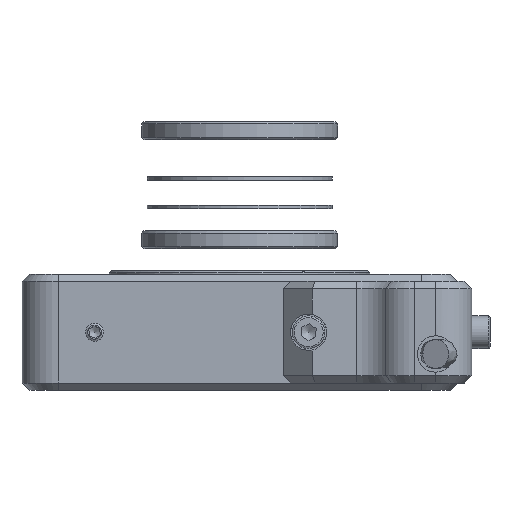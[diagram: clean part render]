
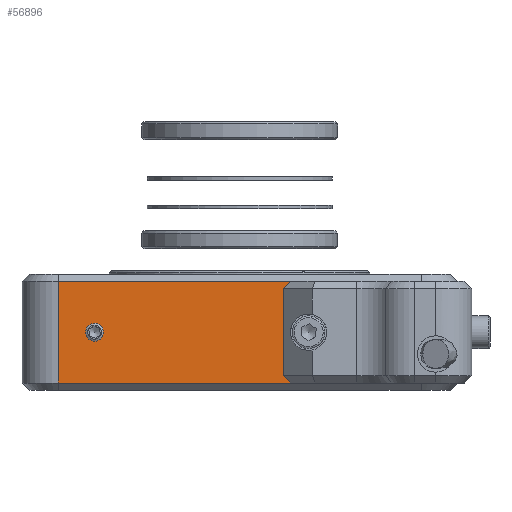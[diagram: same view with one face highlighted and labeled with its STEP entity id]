
A CAD part, left-side view. The second image highlights one B-rep face of the part: STEP entity #56896.
In plain terms, the highlighted planar face has unit normal (-1, 0, 0).
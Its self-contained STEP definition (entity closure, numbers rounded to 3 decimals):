
#3784=FACE_BOUND($,#8637,.T.);
#3785=FACE_BOUND($,#8638,.T.);
#4449=CIRCLE($,#60255,1.23);
#8637=EDGE_LOOP($,(#36636));
#8638=EDGE_LOOP($,(#36637,#36638,#36639,#36640,#36641,#36642));
#11892=LINE($,#74800,#16887);
#11911=LINE($,#74840,#16906);
#11934=LINE($,#74925,#16929);
#11938=LINE($,#75145,#16933);
#11939=LINE($,#75147,#16934);
#11940=LINE($,#75148,#16935);
#16887=VECTOR($,#63788,1.414);
#16906=VECTOR($,#63821,1.414);
#16929=VECTOR($,#63900,12.);
#16933=VECTOR($,#63936,32.);
#16934=VECTOR($,#63937,14.);
#16935=VECTOR($,#63938,32.);
#22051=VERTEX_POINT($,#74797);
#22052=VERTEX_POINT($,#74799);
#22065=VERTEX_POINT($,#74837);
#22066=VERTEX_POINT($,#74839);
#22094=VERTEX_POINT($,#75142);
#22095=VERTEX_POINT($,#75144);
#22096=VERTEX_POINT($,#75146);
#27733=EDGE_CURVE($,#22051,#22052,#11892,.T.);
#27753=EDGE_CURVE($,#22066,#22065,#11911,.T.);
#27788=EDGE_CURVE($,#22051,#22066,#11934,.T.);
#27804=EDGE_CURVE($,#22094,#22094,#4449,.T.);
#27805=EDGE_CURVE($,#22095,#22065,#11938,.T.);
#27806=EDGE_CURVE($,#22096,#22095,#11939,.T.);
#27807=EDGE_CURVE($,#22052,#22096,#11940,.T.);
#36636=ORIENTED_EDGE($,*,*,#27804,.T.);
#36637=ORIENTED_EDGE($,*,*,#27753,.T.);
#36638=ORIENTED_EDGE($,*,*,#27805,.F.);
#36639=ORIENTED_EDGE($,*,*,#27806,.F.);
#36640=ORIENTED_EDGE($,*,*,#27807,.F.);
#36641=ORIENTED_EDGE($,*,*,#27733,.F.);
#36642=ORIENTED_EDGE($,*,*,#27788,.T.);
#52029=PLANE($,#60254);
#56896=ADVANCED_FACE($,(#3784,#3785),#52029,.T.);
#60254=AXIS2_PLACEMENT_3D($,#75141,#63932,#63933);
#60255=AXIS2_PLACEMENT_3D($,#75143,#63934,#63935);
#63788=DIRECTION($,(0.,-0.707,-0.707));
#63821=DIRECTION($,(0.,-0.707,0.707));
#63900=DIRECTION($,(0.,0.,1.));
#63932=DIRECTION('center_axis',(-1.,0.,0.));
#63933=DIRECTION('ref_axis',(0.,-1.,0.));
#63934=DIRECTION('center_axis',(1.,0.,0.));
#63935=DIRECTION('ref_axis',(0.,0.,
1.));
#63936=DIRECTION($,(0.,-1.,0.));
#63937=DIRECTION($,(0.,0.,1.));
#63938=DIRECTION($,(0.,1.,0.));
#74797=CARTESIAN_POINT('',(-17.946,24.,2.));
#74799=CARTESIAN_POINT('',(-17.946,23.,1.));
#74800=CARTESIAN_POINT($,(-17.946,17.5,-4.5));
#74837=CARTESIAN_POINT('',(-17.946,23.,15.));
#74839=CARTESIAN_POINT('',(-17.946,24.,14.));
#74840=CARTESIAN_POINT($,(-17.946,32.75,5.25));
#74925=CARTESIAN_POINT($,(-17.946,24.,1.));
#75141=CARTESIAN_POINT('Origin',(-17.946,60.,14.));
#75142=CARTESIAN_POINT('',(-17.946,50.,9.23));
#75143=CARTESIAN_POINT('Origin',(-17.946,50.,8.));
#75144=CARTESIAN_POINT('',(-17.946,55.,15.));
#75145=CARTESIAN_POINT($,(-17.946,45.,15.));
#75146=CARTESIAN_POINT('',(-17.946,55.,1.));
#75147=CARTESIAN_POINT($,(-17.946,55.,14.));
#75148=CARTESIAN_POINT($,(-17.946,45.,1.));
